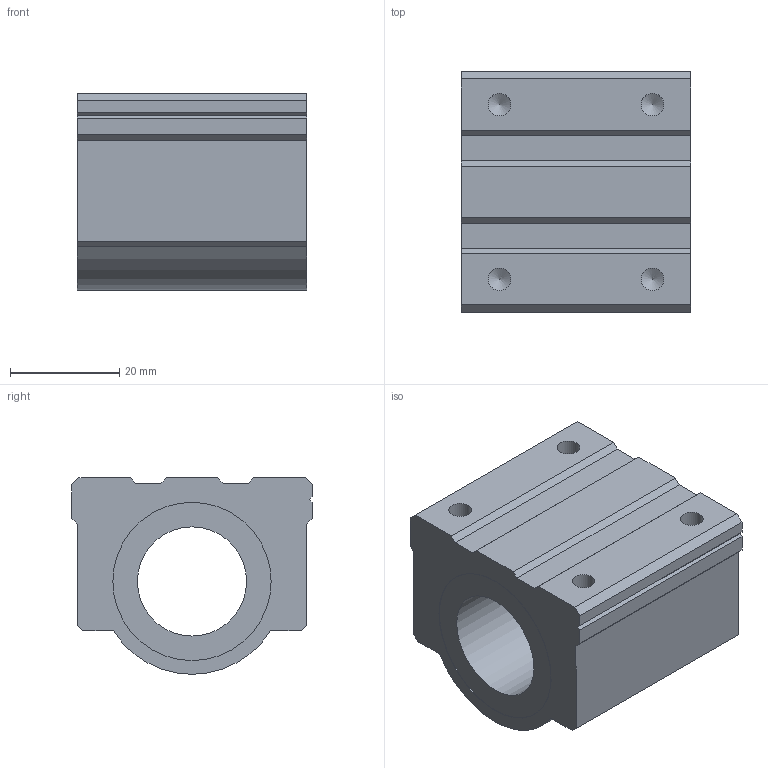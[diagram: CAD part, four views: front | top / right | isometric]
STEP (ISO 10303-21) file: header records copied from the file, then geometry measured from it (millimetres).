
FILE_DESCRIPTION((''),'2;1');
FILE_NAME('D:\製品 (図面)\カタログ用3D\リニアベアリング関連\STEP形式\LCH\LCH20.stp','2010-06-02T17:39:17',('Tsuchiya'),(''),'Autodesk Inventor 10','Autodesk Inventor 10','');
FILE_SCHEMA(('AUTOMOTIVE_DESIGN { 1 0 10303 214 1 1 1 1 }'));
Length unit declared in the file: millimetre
Products named in the file (1): LCH20
Bounding box: 42 x 44 x 36 mm (x, y, z)
Volume: 42496.5 mm3; surface area: 11444.9 mm2
Topology: 1 solids, 1 shells, 42 faces, 112 edges, 75 vertices
Faces by surface type: plane 28, cylinder 7, bspline 5, cone 2
Full cylindrical faces by diameter (mm): 4.134 x2, 20 x1, 29 x2
Entity records: 1301 total; most frequent: CARTESIAN_POINT 336, DIRECTION 183, ORIENTED_EDGE 182, EDGE_CURVE 91, VECTOR 73, LINE 73, VERTEX_POINT 66, EDGE_LOOP 59
